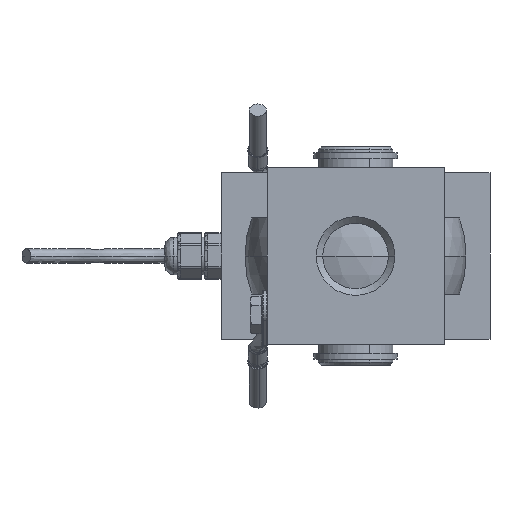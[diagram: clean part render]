
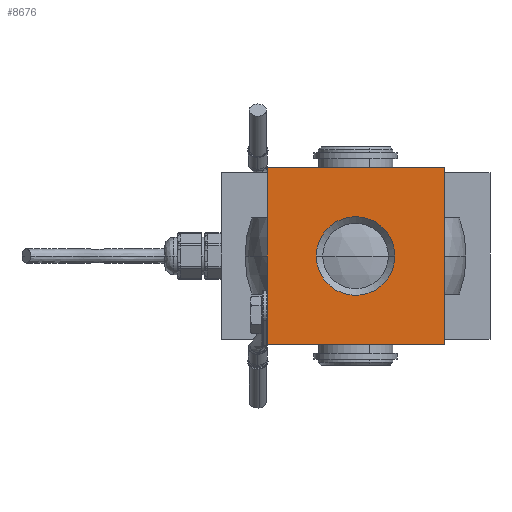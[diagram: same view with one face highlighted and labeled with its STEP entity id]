
A CAD part, front view. The second image highlights one B-rep face of the part: STEP entity #8676.
In plain terms, the highlighted planar face has unit normal (0, -1, 0).
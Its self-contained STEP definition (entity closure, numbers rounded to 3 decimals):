
#1167 = CARTESIAN_POINT ( 'NONE',  ( 0., 0., 0. ) ) ;
#2046 = CARTESIAN_POINT ( 'NONE',  ( 60., 0., 0. ) ) ;
#3474 = CARTESIAN_POINT ( 'NONE',  ( 0., 0., 0. ) ) ;
#3631 = DIRECTION ( 'NONE',  ( -1., 0., 0. ) ) ;
#3650 = CIRCLE ( 'NONE', #6925, 13.335 ) ;
#4173 = LINE ( 'NONE', #9438, #8491 ) ;
#4452 = VERTEX_POINT ( 'NONE', #17173 ) ;
#4566 = DIRECTION ( 'NONE',  ( 0., -1., 0. ) ) ;
#4588 = CARTESIAN_POINT ( 'NONE',  ( 30., 0., -30. ) ) ;
#4705 = EDGE_CURVE ( 'NONE', #7146, #8190, #3650, .T. ) ;
#4726 = DIRECTION ( 'NONE',  ( 1., 0., 0. ) ) ;
#4841 = ORIENTED_EDGE ( 'NONE', *, *, #18157, .F. ) ;
#4929 = LINE ( 'NONE', #3474, #8653 ) ;
#5329 = DIRECTION ( 'NONE',  ( 0., 0., 1. ) ) ;
#5412 = ORIENTED_EDGE ( 'NONE', *, *, #4705, .F. ) ;
#5466 = EDGE_CURVE ( 'NONE', #20582, #13552, #10623, .T. ) ;
#5981 = VERTEX_POINT ( 'NONE', #23252 ) ;
#6433 = DIRECTION ( 'NONE',  ( 0., 0., -1. ) ) ;
#6641 = CARTESIAN_POINT ( 'NONE',  ( 30., 0., -43.335 ) ) ;
#6686 = EDGE_LOOP ( 'NONE', ( #13636, #7454, #10383, #17489 ) ) ;
#6925 = AXIS2_PLACEMENT_3D ( 'NONE', #4588, #17498, #6433 ) ;
#7146 = VERTEX_POINT ( 'NONE', #23005 ) ;
#7454 = ORIENTED_EDGE ( 'NONE', *, *, #20777, .F. ) ;
#8190 = VERTEX_POINT ( 'NONE', #6641 ) ;
#8491 = VECTOR ( 'NONE', #16806, 1000. ) ;
#8653 = VECTOR ( 'NONE', #5329, 1000. ) ;
#8676 = ADVANCED_FACE ( 'NONE', ( #11986, #11388 ), #10018, .T. ) ;
#9438 = CARTESIAN_POINT ( 'NONE',  ( 60., 0., 0. ) ) ;
#9486 = EDGE_CURVE ( 'NONE', #13552, #4452, #4173, .T. ) ;
#9664 = EDGE_LOOP ( 'NONE', ( #4841, #5412 ) ) ;
#10018 = PLANE ( 'NONE',  #22145 ) ;
#10383 = ORIENTED_EDGE ( 'NONE', *, *, #9486, .F. ) ;
#10623 = LINE ( 'NONE', #15782, #15580 ) ;
#10626 = DIRECTION ( 'NONE',  ( 0., -1., 0. ) ) ;
#10636 = CARTESIAN_POINT ( 'NONE',  ( 0., 0., -60. ) ) ;
#11388 = FACE_OUTER_BOUND ( 'NONE', #6686, .T. ) ;
#11888 = CARTESIAN_POINT ( 'NONE',  ( 0., 0., -60. ) ) ;
#11986 = FACE_BOUND ( 'NONE', #9664, .T. ) ;
#13209 = AXIS2_PLACEMENT_3D ( 'NONE', #21709, #10626, #23547 ) ;
#13552 = VERTEX_POINT ( 'NONE', #2046 ) ;
#13636 = ORIENTED_EDGE ( 'NONE', *, *, #16782, .F. ) ;
#15580 = VECTOR ( 'NONE', #4726, 1000. ) ;
#15782 = CARTESIAN_POINT ( 'NONE',  ( 0., 0., 0. ) ) ;
#16782 = EDGE_CURVE ( 'NONE', #5981, #20582, #4929, .T. ) ;
#16806 = DIRECTION ( 'NONE',  ( 0., 0., -1. ) ) ;
#17173 = CARTESIAN_POINT ( 'NONE',  ( 60., 0., -60. ) ) ;
#17479 = DIRECTION ( 'NONE',  ( 0., 0., -1. ) ) ;
#17489 = ORIENTED_EDGE ( 'NONE', *, *, #5466, .F. ) ;
#17498 = DIRECTION ( 'NONE',  ( 0., -1., 0. ) ) ;
#18157 = EDGE_CURVE ( 'NONE', #8190, #7146, #23363, .T. ) ;
#19323 = VECTOR ( 'NONE', #3631, 1000. ) ;
#19892 = LINE ( 'NONE', #10636, #19323 ) ;
#20582 = VERTEX_POINT ( 'NONE', #1167 ) ;
#20777 = EDGE_CURVE ( 'NONE', #4452, #5981, #19892, .T. ) ;
#21709 = CARTESIAN_POINT ( 'NONE',  ( 30., 0., -30. ) ) ;
#22145 = AXIS2_PLACEMENT_3D ( 'NONE', #11888, #4566, #17479 ) ;
#23005 = CARTESIAN_POINT ( 'NONE',  ( 30., 0., -16.665 ) ) ;
#23252 = CARTESIAN_POINT ( 'NONE',  ( 0., 0., -60. ) ) ;
#23363 = CIRCLE ( 'NONE', #13209, 13.335 ) ;
#23547 = DIRECTION ( 'NONE',  ( 0., 0., -1. ) ) ;
